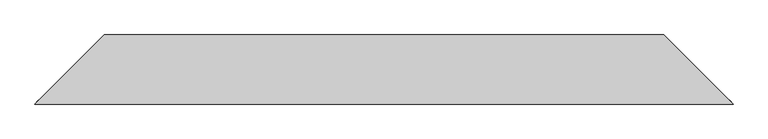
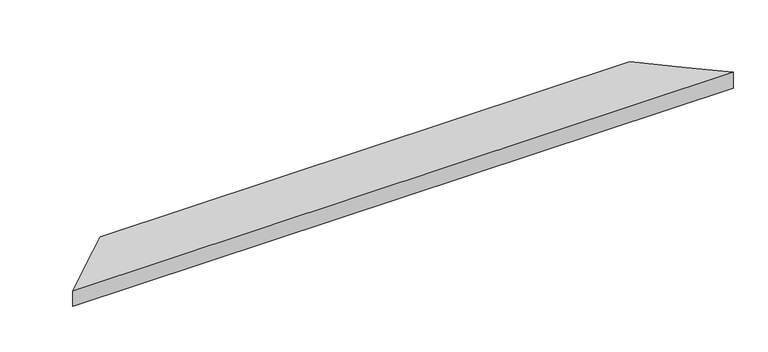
"""IFC4 building model written with IfcOpenShell, lengths in millimetres: proxy geometry, АК5_1 Парапет : АК5_1 Парапет."""

from ifc_helpers import new_model, si_unit, origin, place, context, project, spatial, faceted_brep, source, transform, mapped, element, save


def generic_models_c6e7b0bf(model_context):
    return source(origin(), model_context, "Body", "Brep", [
        faceted_brep([(-150.0, -150.0, 62.265966), (-150.0, -150.0, -20.4), (3152.6273987, -150.0, -20.4), (3152.6273987, -150.0, 62.265966), (177.1, 177.1, 33.6484242), (0.0, 0.0, 49.1426665), (3002.6273987, 0.0, 49.1426665), (2825.5273987, 177.1, 33.6484242), (177.1, 177.1, -51.4916897), (2825.5273987, 177.1, -51.4916897), (162.9578644, 162.9578644, -37.3495541), (2839.6695344, 162.9578644, -37.3495541), (162.9578644, 162.9578644, -77.3495541), (2839.6695344, 162.9578644, -77.3495541), (160.0, 160.0, -77.3495541), (2842.6273987, 160.0, -77.3495541), (160.0, 160.0, -57.3495541), (2842.6273987, 160.0, -57.3495541), (161.0, 161.0, -57.3495541), (2841.6273987, 161.0, -57.3495541), (161.0, 161.0, -76.3495541), (2841.6273987, 161.0, -76.3495541), (161.9578644, 161.9578644, -76.3495541), (2840.6695344, 161.9578644, -76.3495541), (161.9578644, 161.9578644, -34.9353406), (2840.6695344, 161.9578644, -34.9353406), (176.1, 176.1, -49.0774762), (2826.5273987, 176.1, -49.0774762), (176.1, 176.1, 32.732093), (2826.5273987, 176.1, 32.732093), (0.0, 0.0, 48.1388467), (3002.6273987, 0.0, 48.1388467), (3151.6273987, -149.0, 61.1746575), (-149.0, -149.0, 61.1746575), (-149.0, -149.0, -17.9857864), (3151.6273987, -149.0, -17.9857864), (-133.0294373, -133.0294373, -2.0152237), (3135.656836, -133.0294373, -2.0152237), (-132.3223305, -132.3223305, -2.7223305), (3134.9497292, -132.3223305, -2.7223305)], [[[0, 1, 2, 3]], [[4, 5, 0, 3, 6, 7]], [[8, 4, 7, 9]], [[10, 8, 9, 11]], [[12, 10, 11, 13]], [[14, 12, 13, 15]], [[16, 14, 15, 17]], [[18, 16, 17, 19]], [[20, 18, 19, 21]], [[22, 20, 21, 23]], [[24, 22, 23, 25]], [[26, 24, 25, 27]], [[28, 26, 27, 29]], [[30, 28, 29, 31, 32, 33]], [[34, 33, 32, 35]], [[36, 34, 35, 37]], [[38, 36, 37, 39]], [[1, 38, 39, 2]], [[30, 5, 4, 8, 10, 12, 14, 16, 18, 20, 22, 24, 26, 28]], [[5, 30, 33, 34, 36, 38, 1, 0]], [[6, 31, 29, 27, 25, 23, 21, 19, 17, 15, 13, 11, 9, 7]], [[31, 6, 3, 2, 39, 37, 35, 32]]]),
        faceted_brep([(-148.0, -148.0, -12.5), (-146.0, -146.0, -12.5), (3148.6273987, -146.0, -12.5), (3150.6273987, -148.0, -12.5), (-148.0, -148.0, 60.083349), (3150.6273987, -148.0, 60.083349), (1.5433638, 1.5433638, 47.0), (0.0, 0.0, 47.1350268), (3002.6273987, 0.0, 47.1350268), (3001.084035, 1.5433638, 47.0), (1.5433638, 1.5433638, 4.0), (3001.084035, 1.5433638, 4.0), (67.5433638, 67.5433638, 4.0), (2935.084035, 67.5433638, 4.0), (67.5433638, 67.5433638, 41.2257482), (2935.084035, 67.5433638, 41.2257482), (114.5464367, 114.5464367, 37.1135122), (2888.0809621, 114.5464367, 37.1135122), (114.3721252, 114.3721252, 35.1211228), (2888.2552736, 114.3721252, 35.1211228), (69.5433638, 69.5433638, 39.0431312), (2933.084035, 69.5433638, 39.0431312), (69.5433638, 69.5433638, 2.0), (2933.084035, 69.5433638, 2.0), (0.0, 0.0, 2.0), (3002.6273987, 0.0, 2.0), (3003.084035, -0.4566362, 2.0), (-0.4566362, -0.4566362, 2.0), (-0.4566362, -0.4566362, 45.1673377), (3003.084035, -0.4566362, 45.1673377), (-146.0, -146.0, 57.900732), (3148.6273987, -146.0, 57.900732)], [[[0, 1, 2, 3]], [[4, 0, 3, 5]], [[6, 7, 4, 5, 8, 9]], [[10, 6, 9, 11]], [[12, 10, 11, 13]], [[14, 12, 13, 15]], [[16, 14, 15, 17]], [[18, 16, 17, 19]], [[20, 18, 19, 21]], [[22, 20, 21, 23]], [[24, 22, 23, 25, 26, 27]], [[28, 27, 26, 29]], [[30, 28, 29, 31]], [[1, 30, 31, 2]], [[24, 7, 6, 10, 12, 14, 16, 18, 20, 22]], [[7, 24, 27, 28, 30, 1, 0, 4]], [[8, 25, 23, 21, 19, 17, 15, 13, 11, 9]], [[25, 8, 5, 3, 2, 31, 29, 26]]]),
    ])


if __name__ == "__main__":
    model = new_model("IFC4")
    model_context = context("Model", 3, world=origin())
    ifc_project = project(units=[si_unit("LENGTHUNIT", "METRE", prefix="MILLI")], contexts=[model_context])
    site = spatial("IfcSite", under=ifc_project)
    building = spatial("IfcBuilding", under=site)
    placement = place(None, origin())
    generic_models_shape = generic_models_c6e7b0bf(model_context)
    element("IfcBuildingElementProxy", 1, Name="АК5_1 Парапет : АК5_1 Парапет", ObjectType="АК5_1 Парапет : АК5_1 Парапет", at=placement, inside=building, context=model_context, shape_type="MappedRepresentation", body=[
        mapped(generic_models_shape, transform((0.0, 0.0, 0.0), x_axis=(1.0, 0.0, 0.0), y_axis=(0.0, 1.0, 0.0), z_axis=(0.0, 0.0, 1.0))),
    ])
    save(model, "model.ifc")
